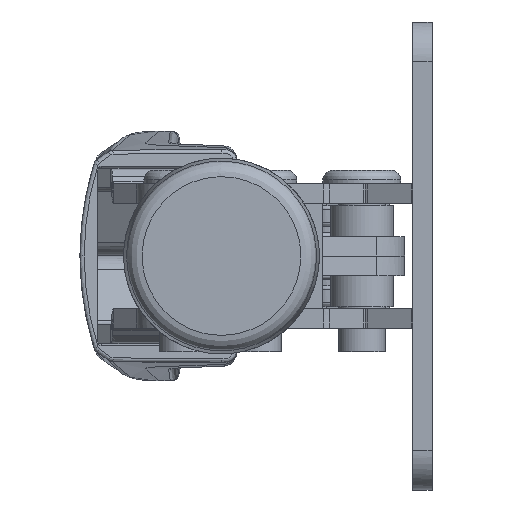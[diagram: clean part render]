
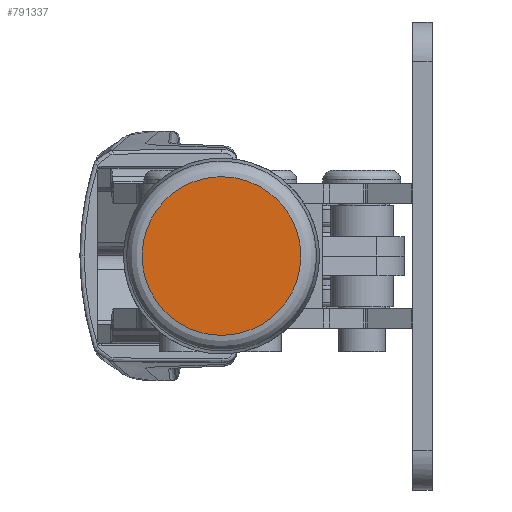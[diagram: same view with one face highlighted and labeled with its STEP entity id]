
A CAD part, left-side view. The second image highlights one B-rep face of the part: STEP entity #791337.
In plain terms, the highlighted free-form (B-spline) face has degree [1, 1] with [2, 2] control points.
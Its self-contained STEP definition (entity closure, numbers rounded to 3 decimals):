
#791304=CARTESIAN_POINT('',(-6.5,0.,10.167));
#791305=VERTEX_POINT('',#791304);
#791312=CARTESIAN_POINT('',(-6.5,0.,10.167));
#791313=CARTESIAN_POINT('',(-6.5,-10.167,10.167));
#791314=CARTESIAN_POINT('',(-6.5,-10.167,0.));
#791315=CARTESIAN_POINT('',(-6.5,-10.167,-10.167));
#791316=CARTESIAN_POINT('',(-6.5,0.,-10.167));
#791317=CARTESIAN_POINT('',(-6.5,10.167,-10.167));
#791318=CARTESIAN_POINT('',(-6.5,10.167,0.));
#791319=CARTESIAN_POINT('',(-6.5,10.167,10.167));
#791320=CARTESIAN_POINT('',(-6.5,0.,10.167));
#791321=(BOUNDED_CURVE()B_SPLINE_CURVE(2,(#791312,#791313,#791314,#791315,#791316,#791317,#791318,#791319,#791320),.CIRCULAR_ARC.,.T.,.U.)B_SPLINE_CURVE_WITH_KNOTS((3,2,2,2,3),(0.,0.25,0.5,0.75,1.),.UNSPECIFIED.)CURVE()GEOMETRIC_REPRESENTATION_ITEM()RATIONAL_B_SPLINE_CURVE((1.,0.707,1.,0.707,1.,0.707,1.,0.707,1.))REPRESENTATION_ITEM(''));
#791322=EDGE_CURVE('',#791305,#791305,#791321,.T.);
#791329=CARTESIAN_POINT('',(-6.5,-30.502,-30.502));
#791330=CARTESIAN_POINT('',(-6.5,30.502,-30.502));
#791331=CARTESIAN_POINT('',(-6.5,-30.502,30.502));
#791332=CARTESIAN_POINT('',(-6.5,30.502,30.502));
#791333=B_SPLINE_SURFACE_WITH_KNOTS('',1,1,((#791329,#791330),(#791331,#791332)),.PLANE_SURF.,.F.,.F.,.U.,(2,2),(2,2),(-1.,2.),(-1.,2.),.UNSPECIFIED.);
#791334=ORIENTED_EDGE('',*,*,#791322,.F.);
#791335=EDGE_LOOP('',(#791334));
#791336=FACE_OUTER_BOUND('',#791335,.T.);
#791337=ADVANCED_FACE('',(#791336),#791333,.T.);
